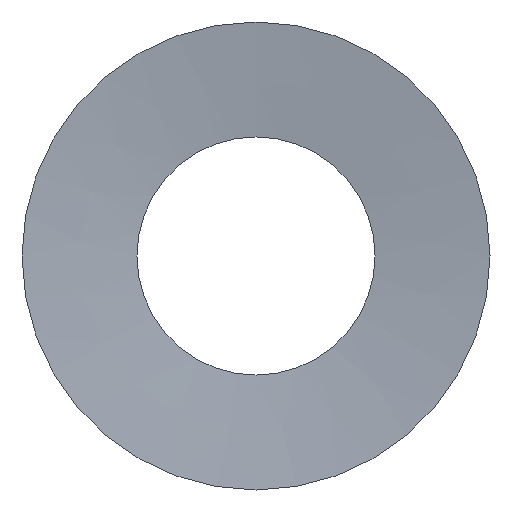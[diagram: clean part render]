
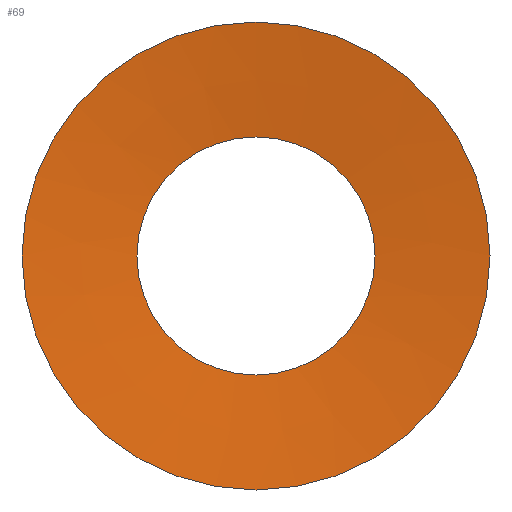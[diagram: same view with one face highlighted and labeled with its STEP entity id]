
A CAD part, front view. The second image highlights one B-rep face of the part: STEP entity #69.
In plain terms, the highlighted conical face has half-angle 83.417 degrees and reference radius 42.25 mm.
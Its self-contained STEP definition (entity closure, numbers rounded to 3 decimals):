
#19=FACE_OUTER_BOUND('',#23,.T.);
#23=EDGE_LOOP('',(#57,#58,#59,#60));
#27=LINE('',#137,#31);
#31=VECTOR('',#118,42.25);
#35=CIRCLE('',#98,28.5);
#36=CIRCLE('',#100,56.);
#39=VERTEX_POINT('',#132);
#40=VERTEX_POINT('',#136);
#45=EDGE_CURVE('',#39,#39,#35,.T.);
#46=EDGE_CURVE('',#39,#40,#27,.T.);
#47=EDGE_CURVE('',#40,#40,#36,.T.);
#57=ORIENTED_EDGE('',*,*,#45,.T.);
#58=ORIENTED_EDGE('',*,*,#46,.T.);
#59=ORIENTED_EDGE('',*,*,#47,.F.);
#60=ORIENTED_EDGE('',*,*,#46,.F.);
#66=CONICAL_SURFACE('',#99,42.25,1.456);
#69=ADVANCED_FACE('',(#19),#66,.F.);
#98=AXIS2_PLACEMENT_3D('',#134,#114,#115);
#99=AXIS2_PLACEMENT_3D('',#135,#116,#117);
#100=AXIS2_PLACEMENT_3D('',#138,#119,#120);
#114=DIRECTION('center_axis',(0.,1.,0.));
#115=DIRECTION('ref_axis',(1.,0.,0.));
#116=DIRECTION('center_axis',(0.,-1.,0.));
#117=DIRECTION('ref_axis',(0.,0.,-1.));
#118=DIRECTION('',(0.,-0.115,0.993));
#119=DIRECTION('center_axis',(0.,1.,0.));
#120=DIRECTION('ref_axis',(1.,0.,0.));
#132=CARTESIAN_POINT('',(0.,3.173,28.5));
#134=CARTESIAN_POINT('Origin',(0.,3.173,0.));
#135=CARTESIAN_POINT('Origin',(0.,1.587,0.));
#136=CARTESIAN_POINT('',(0.,0.,56.));
#137=CARTESIAN_POINT('',(0.,1.587,42.25));
#138=CARTESIAN_POINT('Origin',(0.,0.,0.));
